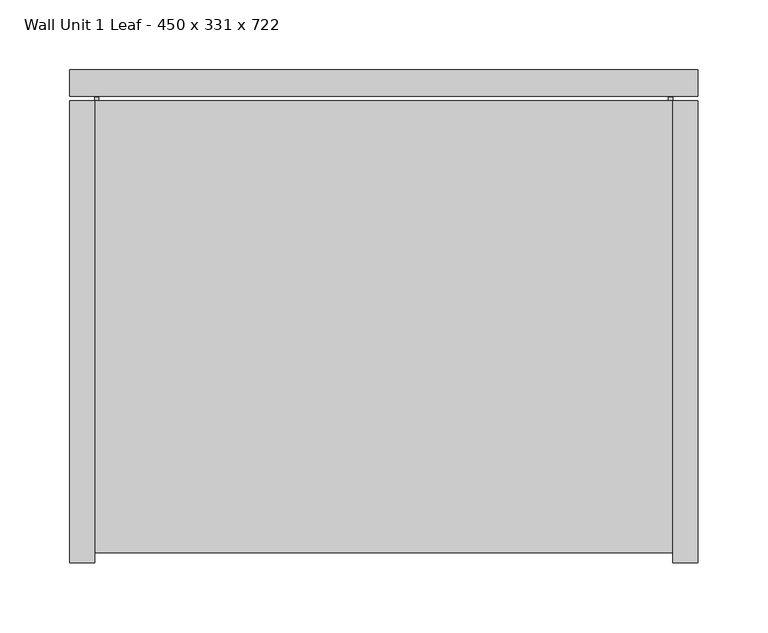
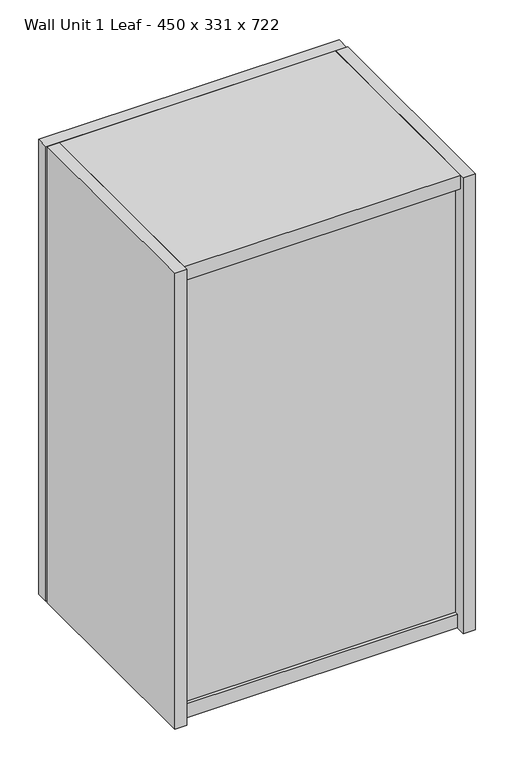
"""IFC4 building model written with IfcOpenShell, lengths in millimetres: furniture geometry, Furniture_Other-Furniture_Molteni&C_Prime_Wall-Unit-SP-1-Leaf_331mm : Wall Unit 1 Leaf - 450 x 331 x 722."""

import ifcopenshell
import ifcopenshell.guid

model = None  # the IFC model being written
_history = None  # IfcOwnerHistory: only IFC2X3 demands one
_inside = {}  # id of a spatial element -> (the spatial element, [elements in it])
_under = {}  # id of a project, library or spatial element -> (it, [spatial elements below it])
_declared = {}  # id of a project -> (the project, [libraries it declares])
_typed = {}  # id of a type object -> (the type object, [elements of that type])
_made_of = {}  # id of a material, layer set ... -> (it, [elements and type objects made of it])


def new_model(schema):
    """Start an empty IFC model of exactly this schema.

    Asked for "IFC4X3", IfcOpenShell would pick the latest addendum, in which some entities
    have other attributes; the version numbers below select the first issue.
    IFC2X3 requires an IfcOwnerHistory on every rooted entity: one is made here for all.
    """
    global model, _history
    if schema == "IFC4X3":
        model = ifcopenshell.file(schema_version=(4, 3, 0, 0))
    else:
        model = ifcopenshell.file(schema=schema)
    _inside.clear()
    _under.clear()
    _declared.clear()
    _typed.clear()
    _made_of.clear()
    _history = None
    if model.schema == "IFC2X3":
        org = make("IfcOrganization", Name="unknown")
        user = make(
            "IfcPersonAndOrganization",
            ThePerson=make("IfcPerson", FamilyName="unknown"),
            TheOrganization=org,
        )
        app = make(
            "IfcApplication",
            ApplicationDeveloper=org,
            Version="unknown",
            ApplicationFullName="unknown",
            ApplicationIdentifier="unknown",
        )
        _history = make(
            "IfcOwnerHistory",
            OwningUser=user,
            OwningApplication=app,
            ChangeAction="ADDED",
            CreationDate=0,
        )
    return model


def make(cls, **values):
    """One entity of the class cls with the attributes given. An attribute that is None is left unset."""
    return model.create_entity(
        cls, **{name: value for name, value in values.items() if value is not None}
    )


def rooted(cls, **values):
    """An entity with a GlobalId (a new one), such as an element, a storey or a relation."""
    return make(cls, GlobalId=ifcopenshell.guid.new(), OwnerHistory=_history, **values)


def si_unit(unit_type, name, prefix=None):
    """IfcSIUnit, for example si_unit("LENGTHUNIT", "METRE", prefix="MILLI")."""
    return make("IfcSIUnit", UnitType=unit_type, Prefix=prefix, Name=name)


def assignment(units):
    """IfcUnitAssignment: the units of a project."""
    return None if units is None else make("IfcUnitAssignment", Units=units)


def point(xyz):
    """IfcCartesianPoint."""
    return None if xyz is None else make("IfcCartesianPoint", Coordinates=xyz)


def direction(xyz):
    """IfcDirection."""
    return None if xyz is None else make("IfcDirection", DirectionRatios=xyz)


def frame(location, z_axis=None, x_axis=None):
    """IfcAxis2Placement3D, a coordinate frame: its origin and axes. An axis left out is left unset."""
    return make(
        "IfcAxis2Placement3D",
        Location=point(location),
        Axis=direction(z_axis),
        RefDirection=direction(x_axis),
    )


def origin():
    """The frame at (0, 0, 0) with its axes left unset."""
    return frame((0.0, 0.0, 0.0))


def origin_with_axes():
    """The frame at (0, 0, 0) with the z axis (0, 0, 1) and the x axis (1, 0, 0) written out."""
    return frame((0.0, 0.0, 0.0), z_axis=(0.0, 0.0, 1.0), x_axis=(1.0, 0.0, 0.0))


def place(relative_to, where):
    """IfcLocalPlacement: puts the frame where relative to a parent placement (None: the world)."""
    return make(
        "IfcLocalPlacement", PlacementRelTo=relative_to, RelativePlacement=where
    )


def context(
    kind, dimensions, precision=None, world=None, true_north=None, identifier=None
):
    """IfcGeometricRepresentationContext, for example the 3D "Model" context."""
    return make(
        "IfcGeometricRepresentationContext",
        ContextIdentifier=identifier,
        ContextType=kind,
        CoordinateSpaceDimension=dimensions,
        Precision=precision,
        WorldCoordinateSystem=world,
        TrueNorth=true_north,
    )


def project(units=None, contexts=None):
    """IfcProject with its units and contexts."""
    return rooted(
        "IfcProject",
        Name="project",
        RepresentationContexts=contexts,
        UnitsInContext=assignment(units),
    )


def spatial(cls, under=None, at=None, **own):
    """A site, building, storey or space (cls), placed at a placement, below another one or the project."""
    s = rooted(cls, ObjectPlacement=at, **own)
    if under is not None:
        _under.setdefault(under.id(), (under, []))[1].append(s)
    return s


def polyline(points):
    """IfcPolyline through the points."""
    return make("IfcPolyline", Points=[point(p) for p in points])


def circle_curve(where, radius):
    """IfcCircle in the frame where."""
    return make("IfcCircle", Position=where, Radius=radius)


def outline(outer, holes=None, kind="AREA"):
    """IfcArbitraryClosedProfileDef: a profile drawn as a closed curve; with holes, ...WithVoids."""
    if holes is None:
        return make("IfcArbitraryClosedProfileDef", ProfileType=kind, OuterCurve=outer)
    return make(
        "IfcArbitraryProfileDefWithVoids",
        ProfileType=kind,
        OuterCurve=outer,
        InnerCurves=holes,
    )


def extrude(swept, where, along, depth):
    """IfcExtrudedAreaSolid: the profile swept, set in the frame where, extruded along a direction by depth."""
    return make(
        "IfcExtrudedAreaSolid",
        SweptArea=swept,
        Position=where,
        ExtrudedDirection=direction(along),
        Depth=depth,
    )


def faces_of(points, faces, orient=None, outer=None):
    """IfcFace entities. A face is a list of loops; a loop is a list of indices into points, from 0.

    orient and outer hold one flag for each loop. By default every Orientation is true, the
    first loop of a face is its IfcFaceOuterBound and the others are IfcFaceBound.
    """
    made = []
    for i, loops in enumerate(faces):
        bounds = []
        for j, loop in enumerate(loops):
            is_outer = j == 0 if outer is None else outer[i][j]
            bounds.append(
                make(
                    "IfcFaceOuterBound" if is_outer else "IfcFaceBound",
                    Bound=make("IfcPolyLoop", Polygon=[points[k] for k in loop]),
                    Orientation=True if orient is None else orient[i][j],
                )
            )
        made.append(make("IfcFace", Bounds=bounds))
    return made


def faceted_brep(points, faces, orient=None, outer=None, voids=None):
    """IfcFacetedBrep: a solid bounded by flat faces; with voids (closed shells), ...WithVoids."""
    shared = [point(p) for p in points]
    hull = make("IfcClosedShell", CfsFaces=faces_of(shared, faces, orient, outer))
    if voids is None:
        return make("IfcFacetedBrep", Outer=hull)
    return make(
        "IfcFacetedBrepWithVoids",
        Outer=hull,
        Voids=[
            make(cls, CfsFaces=faces_of(shared, fs, o, b)) for cls, fs, o, b in voids
        ],
    )


def shape(context_of_items, identifier, shape_type, items):
    """IfcShapeRepresentation: the items that make up one representation, for example the "Body"."""
    return make(
        "IfcShapeRepresentation",
        ContextOfItems=context_of_items,
        RepresentationIdentifier=identifier,
        RepresentationType=shape_type,
        Items=items,
    )


def source(mapping_origin, context_of_items, identifier, shape_type, items):
    """IfcRepresentationMap: a shape defined once, which mapped items show again and again."""
    return make(
        "IfcRepresentationMap",
        MappingOrigin=mapping_origin,
        MappedRepresentation=shape(context_of_items, identifier, shape_type, items),
    )


def transform(
    local_origin,
    x_axis=None,
    y_axis=None,
    z_axis=None,
    scale=None,
    scale2=None,
    scale3=None,
    uniform=True,
):
    """IfcCartesianTransformationOperator3D, or its non-uniform kind. x_axis, y_axis, z_axis: its Axis1, 2, 3."""
    if uniform:
        return make(
            "IfcCartesianTransformationOperator3D",
            Axis1=direction(x_axis),
            Axis2=direction(y_axis),
            LocalOrigin=point(local_origin),
            Scale=scale,
            Axis3=direction(z_axis),
        )
    return make(
        "IfcCartesianTransformationOperator3DnonUniform",
        Axis1=direction(x_axis),
        Axis2=direction(y_axis),
        LocalOrigin=point(local_origin),
        Scale=scale,
        Axis3=direction(z_axis),
        Scale2=scale2,
        Scale3=scale3,
    )


def mapped(mapping_source, mapping_target):
    """IfcMappedItem: shows the shape of a source again, moved by a transform."""
    return make(
        "IfcMappedItem", MappingSource=mapping_source, MappingTarget=mapping_target
    )


def made_of(thing, what):
    """Note that an element or type object is made of a material, layer set ...; save() writes the relation."""
    if what is not None:
        _made_of.setdefault(what.id(), (what, []))[1].append(thing)
    return thing


def element(
    cls,
    number,
    at=None,
    inside=None,
    cuts=None,
    type_object=None,
    material=None,
    context=None,
    identifier="Body",
    shape_type=None,
    held_by="IfcProductDefinitionShape",
    body=None,
    shapes=None,
    **own,
):
    """One element of the class cls, such as IfcWall. Its Tag is "e" and its number.

    at: its placement. inside: the storey or other place that contains it. cuts: it is an
    opening in that element (IfcRelVoidsElement). A single representation is given by context,
    identifier, shape_type and body (its items); several are given by shapes. held_by: the class
    of the entity that holds the representations. save() writes the other relations.
    """
    e = rooted(cls, Tag="e%d" % number, ObjectPlacement=at, **own)
    if body is not None:
        shapes = [shape(context, identifier, shape_type, body)]
    if shapes is not None:
        e.Representation = make(held_by, Representations=shapes)
    if inside is not None:
        _inside.setdefault(inside.id(), (inside, []))[1].append(e)
    if cuts is not None:
        rooted(
            "IfcRelVoidsElement", RelatingBuildingElement=cuts, RelatedOpeningElement=e
        )
    if type_object is not None:
        _typed.setdefault(type_object.id(), (type_object, []))[1].append(e)
    return made_of(e, material)


def aggregate(whole, parts):
    """IfcRelAggregates: a whole, such as a stair, and the parts it consists of."""
    return rooted("IfcRelAggregates", RelatingObject=whole, RelatedObjects=parts)


def save(model, path):
    """Write the relations noted so far, then the file.

    IfcRelAggregates (storeys below a building ...), IfcRelContainedInSpatialStructure (elements
    in a storey), IfcRelDefinesByType, IfcRelAssociatesMaterial and IfcRelDeclares: one each for
    every whole, place, type object, material and project.
    """
    for whole, parts in _under.values():
        aggregate(whole, parts)
    for where, things in _inside.values():
        rooted(
            "IfcRelContainedInSpatialStructure",
            RelatedElements=things,
            RelatingStructure=where,
        )
    for kind, things in _typed.values():
        rooted("IfcRelDefinesByType", RelatedObjects=things, RelatingType=kind)
    for what, things in _made_of.values():
        rooted("IfcRelAssociatesMaterial", RelatedObjects=things, RelatingMaterial=what)
    for by, libraries in _declared.values():
        rooted("IfcRelDeclares", RelatingContext=by, RelatedDefinitions=libraries)
    model.write(path)


def plane_surface(at):
    """IfcPlane: the flat surface through the origin of the frame at, square to its z axis."""
    return make("IfcPlane", Position=at)


def cylinder_surface(at, radius):
    """IfcCylindricalSurface: all points at the distance radius from the z axis of the frame at."""
    return make("IfcCylindricalSurface", Position=at, Radius=radius)


def advanced_brep(points, edges, surfaces, faces):
    """IfcAdvancedBrep: a solid bounded by faces that lie on surfaces and meet in shared edges.

    An edge is (start, end): straight between two places in points (the first is 0);
    or (start, end, curve); or (start, end, curve, False) where it runs against its curve.
    A face is (place in surfaces, loops), or (place, loops, False) where it looks against
    its surface's normal. A loop lists edges by number (the first is 1), with a minus sign
    where the edge is run from its end to its start. The first loop is the outer one.
    """
    corners = [point(p) for p in points]
    vertices = [make("IfcVertexPoint", VertexGeometry=c) for c in corners]
    made = []
    for start, end, *more in edges:
        made.append(
            make(
                "IfcEdgeCurve",
                EdgeStart=vertices[start],
                EdgeEnd=vertices[end],
                EdgeGeometry=more[0] if more else make("IfcPolyline", Points=[corners[start], corners[end]]),
                SameSense=more[1] if len(more) > 1 else True,
            )
        )
    hull = []
    for where, loops, *sense in faces:
        bounds = []
        for j, loop in enumerate(loops):
            ring = [make("IfcOrientedEdge", EdgeElement=made[abs(k) - 1], Orientation=k > 0) for k in loop]
            bounds.append(
                make(
                    "IfcFaceOuterBound" if j == 0 else "IfcFaceBound",
                    Bound=make("IfcEdgeLoop", EdgeList=ring),
                    Orientation=True,
                )
            )
        hull.append(make("IfcAdvancedFace", Bounds=bounds, FaceSurface=surfaces[where], SameSense=sense[0] if sense else True))
    return make("IfcAdvancedBrep", Outer=make("IfcClosedShell", CfsFaces=hull))


def wall_unit_1_leaf_450_x_331_x_722_3be3e329(model_context):
    return source(origin(), model_context, "Body", "SolidModel", [
        advanced_brep(
        [(207.0, 143.5, 0.0), (207.0, 143.5, 15.0), (207.0, 165.5, 15.0), (207.0, 165.5, 16.0), (207.0, 165.5, 21.0), (207.0, 165.5, 22.0), (207.0, -137.5, 22.0), (207.0, -137.5, 17.0), (207.0, -145.5, 17.0), (207.0, -145.5, 22.0), (207.0, -150.0, 22.0), (207.0, -150.0, 0.0), (-207.0, 143.5, 0.0), (-207.0, -150.0, 0.0), (-207.0, -150.0, 22.0), (-207.0, -145.5, 22.0), (-207.0, -145.5, 17.0), (-207.0, -137.5, 17.0), (-207.0, -137.5, 22.0), (-207.0, 165.5, 22.0), (-207.0, 165.5, 21.0), (-207.0, 165.5, 16.0), (-207.0, 165.5, 15.0), (-207.0, 143.5, 15.0), (204.0123099, 165.5, 21.0), (204.0123099, 165.5, 16.0), (-204.1557889, 165.5, 16.0), (-204.1557889, 165.5, 21.0)],
        [
            (0, 1),
            (1, 2),
            (2, 3),
            (3, 4, circle_curve(frame((207.0, 165.5, 18.5), z_axis=(1.0, 0.0, 0.0), x_axis=(0.0, -1.0, 0.0)), 2.5)),
            (4, 5),
            (5, 6),
            (6, 7),
            (7, 8),
            (8, 9),
            (9, 10),
            (10, 11),
            (11, 0),
            (12, 13),
            (13, 14),
            (14, 15),
            (15, 16),
            (16, 17),
            (17, 18),
            (18, 19),
            (19, 20),
            (20, 21, circle_curve(frame((-207.0, 165.5, 18.5), z_axis=(-1.0, 0.0, 0.0), x_axis=(0.0, -1.0, 0.0)), 2.5)),
            (21, 22),
            (22, 23),
            (23, 12),
            (11, 13),
            (12, 0),
            (10, 14),
            (9, 15),
            (8, 16),
            (7, 17),
            (6, 18),
            (5, 19),
            (4, 24),
            (24, 25),
            (25, 3),
            (2, 22),
            (21, 26),
            (26, 27),
            (27, 20),
            (1, 23),
            (26, 27, circle_curve(frame((-204.1557889, 165.5, 18.5), z_axis=(1.0, 0.0, 0.0), x_axis=(0.0, -1.0, 0.0)), 2.5)),
            (24, 25, circle_curve(frame((204.0123099, 165.5, 18.5), z_axis=(-1.0, 0.0, 0.0), x_axis=(0.0, -1.0, 0.0)), 2.5)),
        ],
        [
            plane_surface(frame((207.0, -150.0, 0.0), z_axis=(1.0, 0.0, 0.0), x_axis=(0.0, -1.0, 0.0))),
            plane_surface(frame((-207.0, -150.0, 0.0), z_axis=(-1.0, 0.0, 0.0), x_axis=(0.0, 1.0, 0.0))),
            plane_surface(frame((207.0, 143.5, 0.0), z_axis=(0.0, 0.0, -1.0), x_axis=(-1.0, 0.0, 0.0))),
            plane_surface(frame((207.0, -150.0, 0.0), z_axis=(0.0, -1.0, 0.0), x_axis=(-1.0, 0.0, 0.0))),
            plane_surface(frame((207.0, -150.0, 22.0), z_axis=(0.0, 0.0, 1.0), x_axis=(-1.0, 0.0, 0.0))),
            plane_surface(frame((207.0, -145.5, 22.0), z_axis=(0.0, 1.0, 0.0), x_axis=(-1.0, 0.0, 0.0))),
            plane_surface(frame((207.0, -145.5, 17.0), z_axis=(0.0, 0.0, 1.0), x_axis=(-1.0, 0.0, 0.0))),
            plane_surface(frame((207.0, -137.5, 17.0), z_axis=(0.0, -1.0, 0.0), x_axis=(-1.0, 0.0, 0.0))),
            plane_surface(frame((207.0, -137.5, 22.0), z_axis=(0.0, 0.0, 1.0), x_axis=(-1.0, 0.0, 0.0))),
            plane_surface(frame((207.0, 165.5, 22.0), z_axis=(0.0, 1.0, 0.0), x_axis=(-1.0, 0.0, 0.0))),
            plane_surface(frame((207.0, 165.5, 15.0), z_axis=(0.0, 0.0, -1.0), x_axis=(-1.0, 0.0, 0.0))),
            plane_surface(frame((207.0, 143.5, 15.0), z_axis=(0.0, 1.0, 0.0), x_axis=(-1.0, 0.0, 0.0))),
            plane_surface(frame((-204.1557889, 165.5, 16.0), z_axis=(1.0, 0.0, 0.0), x_axis=(0.0, 0.0, 1.0))),
            cylinder_surface(frame((-207.0, 165.5, 18.5), z_axis=(1.0, 0.0, 0.0), x_axis=(0.0, -1.0, 0.0)), 2.5),
            plane_surface(frame((204.0123099, 163.0, 18.5), z_axis=(-1.0, 0.0, 0.0), x_axis=(0.0, 0.0, -1.0))),
            cylinder_surface(frame((207.0, 165.5, 18.5), z_axis=(-1.0, 0.0, 0.0), x_axis=(0.0, -1.0, 0.0)), 2.5),
        ],
        [
            (0, [[1, 2, 3, 4, 5, 6, 7, 8, 9, 10, 11, 12]]),
            (1, [[13, 14, 15, 16, 17, 18, 19, 20, 21, 22, 23, 24]]),
            (2, [[25, -13, 26, -12]]),
            (3, [[27, -14, -25, -11]]),
            (4, [[28, -15, -27, -10]]),
            (5, [[29, -16, -28, -9]]),
            (6, [[30, -17, -29, -8]]),
            (7, [[31, -18, -30, -7]]),
            (8, [[32, -19, -31, -6]]),
            (9, [[-5, 33, 34, 35, -3, 36, -22, 37, 38, 39, -20, -32]]),
            (10, [[40, -23, -36, -2]]),
            (11, [[-26, -24, -40, -1]]),
            (12, [[-38, 41]]),
            (13, [[-37, -21, -39, -41]]),
            (14, [[-34, 42]]),
            (15, [[-35, -42, -33, -4]]),
        ],
    ),
        faceted_brep([(-225.0, 165.5, 722.0), (-225.0, -165.5, 722.0), (-207.0, -165.5, 722.0), (-207.0, 165.5, 722.0), (-225.0, 165.5, 0.0), (-207.0, 165.5, 0.0), (-207.0, -165.5, 0.0), (-225.0, -165.5, 0.0), (-207.0, -137.5, 17.0), (-207.0, -145.5, 17.0), (-207.0, -145.5, 704.0), (-207.0, -137.5, 704.0), (225.0, 165.5, 722.0), (207.0, 165.5, 722.0), (207.0, -165.5, 722.0), (225.0, -165.5, 722.0), (225.0, 165.5, 0.0), (225.0, -165.5, 0.0), (207.0, -165.5, 0.0), (207.0, 165.5, 0.0), (207.0, -137.5, 704.0), (207.0, -145.5, 704.0), (207.0, -145.5, 17.0), (207.0, -137.5, 17.0)], [[[0, 1, 2, 3]], [[4, 5, 6, 7]], [[3, 5, 4, 0]], [[2, 6, 5, 3], [8, 9, 10, 11]], [[1, 7, 6, 2]], [[0, 4, 7, 1]], [[12, 13, 14, 15]], [[16, 17, 18, 19]], [[12, 16, 19, 13]], [[13, 19, 18, 14], [20, 21, 22, 23]], [[14, 18, 17, 15]], [[15, 17, 16, 12]], [[20, 23, 8, 11]], [[23, 22, 9, 8]], [[22, 21, 10, 9]], [[11, 10, 21, 20]]]),
        extrude(outline(polyline([(207.0, -137.5), (-207.0, -137.5), (-207.0, 165.5), (207.0, 165.5), (207.0, -137.5)])), frame((0.0, 0.0, 350.0), z_axis=(0.0, 0.0, 1.0), x_axis=(1.0, 0.0, 0.0)), (0.0, 0.0, 1.0), 22.0),
        extrude(outline(polyline([(165.5, 722.0), (165.5, 700.0), (-137.5, 700.0), (-137.5, 704.0), (-145.5, 704.0), (-145.5, 700.0), (-158.5, 700.0), (-158.5, 722.0), (165.5, 722.0)])), frame((-207.0, 0.0, 0.0), z_axis=(1.0, 0.0, 0.0), x_axis=(0.0, 1.0, 0.0)), (0.0, 0.0, 1.0), 414.0),
        extrude(outline(polyline([(-0.3822432, 187.5), (225.0, 187.5), (225.0, 168.5), (-1.6098784, 168.5), (-225.0, 168.5), (-225.0, 187.5), (-0.3822432, 187.5)])), origin_with_axes(), (0.0, 0.0, 1.0), 719.9973284),
    ])


if __name__ == "__main__":
    model = new_model("IFC4")
    model_context = context("Model", 3, world=origin())
    ifc_project = project(units=[si_unit("LENGTHUNIT", "METRE", prefix="MILLI")], contexts=[model_context])
    site = spatial("IfcSite", under=ifc_project)
    building = spatial("IfcBuilding", under=site)
    placement = place(None, origin())
    wall_unit_1_leaf_450_x_331_x_722_shape = wall_unit_1_leaf_450_x_331_x_722_3be3e329(model_context)
    element("IfcFurniture", 1, ObjectType="Furniture_Other-Furniture_Molteni&C_Prime_Wall-Unit-SP-1-Leaf_331mm : Wall Unit 1 Leaf - 450 x 331 x 722", at=placement, inside=building, context=model_context, shape_type="MappedRepresentation", body=[
        mapped(wall_unit_1_leaf_450_x_331_x_722_shape, transform((0.0, 0.0, 0.0), x_axis=(1.0, 0.0, 0.0), y_axis=(0.0, 1.0, 0.0), z_axis=(0.0, 0.0, 1.0))),
    ])
    save(model, "model.ifc")
